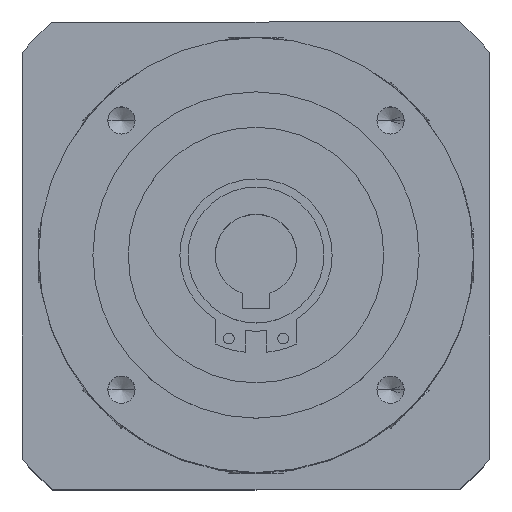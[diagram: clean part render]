
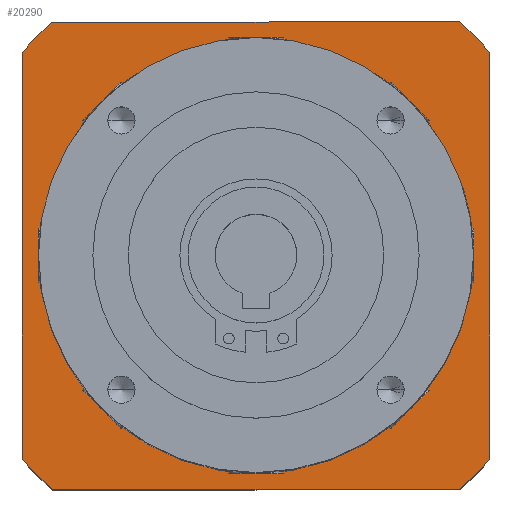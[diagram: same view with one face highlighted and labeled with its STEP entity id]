
A CAD part, top view. The second image highlights one B-rep face of the part: STEP entity #20290.
In plain terms, the highlighted planar face has unit normal (0, 0, 1).
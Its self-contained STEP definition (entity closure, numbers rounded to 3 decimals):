
#890 = CARTESIAN_POINT ( 'NONE',  ( 43., 37.417, -12. ) ) ;
#1550 = EDGE_CURVE ( 'NONE', #31277, #6222, #37655, .T. ) ;
#1603 = EDGE_CURVE ( 'NONE', #32225, #5279, #18137, .T. ) ;
#1997 = LINE ( 'NONE', #33363, #10677 ) ;
#2285 = AXIS2_PLACEMENT_3D ( 'NONE', #6943, #32717, #10690 ) ;
#2527 = CARTESIAN_POINT ( 'NONE',  ( 37.417, -43., -12. ) ) ;
#2835 = CARTESIAN_POINT ( 'NONE',  ( -37.417, -43., -12. ) ) ;
#3167 = DIRECTION ( 'NONE',  ( 0., 0., -1. ) ) ;
#3399 = CARTESIAN_POINT ( 'NONE',  ( 0., 0., -12. ) ) ;
#3526 = EDGE_CURVE ( 'NONE', #36355, #31277, #35825, .T. ) ;
#4879 = EDGE_CURVE ( 'NONE', #34832, #5698, #42678, .T. ) ;
#5279 = VERTEX_POINT ( 'NONE', #890 ) ;
#5698 = VERTEX_POINT ( 'NONE', #29025 ) ;
#6222 = VERTEX_POINT ( 'NONE', #23829 ) ;
#6830 = CARTESIAN_POINT ( 'NONE',  ( 37.417, 43., -12. ) ) ;
#6943 = CARTESIAN_POINT ( 'NONE',  ( 0., 0., -12. ) ) ;
#7098 = LINE ( 'NONE', #38629, #14614 ) ;
#7108 = DIRECTION ( 'NONE',  ( 1., 0., 0. ) ) ;
#7937 = ORIENTED_EDGE ( 'NONE', *, *, #4879, .F. ) ;
#8317 = DIRECTION ( 'NONE',  ( 0., 0., -1. ) ) ;
#8681 = EDGE_CURVE ( 'NONE', #40943, #22997, #30551, .T. ) ;
#8848 = DIRECTION ( 'NONE',  ( 1., 0., 0. ) ) ;
#8912 = DIRECTION ( 'NONE',  ( 0., 0., -1. ) ) ;
#8947 = CARTESIAN_POINT ( 'NONE',  ( 0., 0., -12. ) ) ;
#10523 = DIRECTION ( 'NONE',  ( 1., 0., 0. ) ) ;
#10530 = DIRECTION ( 'NONE',  ( 0., 0., 1. ) ) ;
#10588 = CARTESIAN_POINT ( 'NONE',  ( 0., 0., -12. ) ) ;
#10677 = VECTOR ( 'NONE', #37208, 1000. ) ;
#10690 = DIRECTION ( 'NONE',  ( 1., 0., 0. ) ) ;
#10765 = ORIENTED_EDGE ( 'NONE', *, *, #8681, .F. ) ;
#11021 = DIRECTION ( 'NONE',  ( 0., 1., 0. ) ) ;
#11113 = CARTESIAN_POINT ( 'NONE',  ( -43., 36., -12. ) ) ;
#11777 = CARTESIAN_POINT ( 'NONE',  ( 43., 36., -12. ) ) ;
#13611 = AXIS2_PLACEMENT_3D ( 'NONE', #8947, #8912, #8848 ) ;
#14614 = VECTOR ( 'NONE', #42363, 1000. ) ;
#15356 = VERTEX_POINT ( 'NONE', #15952 ) ;
#15479 = ORIENTED_EDGE ( 'NONE', *, *, #1550, .F. ) ;
#15608 = CARTESIAN_POINT ( 'NONE',  ( 0., 0., -12. ) ) ;
#15669 = DIRECTION ( 'NONE',  ( 0., 0., -1. ) ) ;
#15736 = DIRECTION ( 'NONE',  ( 1., 0., 0. ) ) ;
#15952 = CARTESIAN_POINT ( 'NONE',  ( -37.417, 43., -12. ) ) ;
#16383 = EDGE_CURVE ( 'NONE', #5279, #40943, #27110, .T. ) ;
#18013 = ORIENTED_EDGE ( 'NONE', *, *, #40339, .F. ) ;
#18137 = CIRCLE ( 'NONE', #37818, 57. ) ;
#18233 = ORIENTED_EDGE ( 'NONE', *, *, #3526, .F. ) ;
#18273 = EDGE_LOOP ( 'NONE', ( #33893, #18013, #46667, #15479, #18233, #23667, #10765, #47023 ) ) ;
#20290 = ADVANCED_FACE ( 'NONE', ( #45343, #28048 ), #45002, .F. ) ;
#22074 = ORIENTED_EDGE ( 'NONE', *, *, #38146, .F. ) ;
#22997 = VERTEX_POINT ( 'NONE', #2527 ) ;
#23618 = EDGE_CURVE ( 'NONE', #22997, #36355, #1997, .T. ) ;
#23667 = ORIENTED_EDGE ( 'NONE', *, *, #23618, .F. ) ;
#23829 = CARTESIAN_POINT ( 'NONE',  ( -43., 37.417, -12. ) ) ;
#25244 = CARTESIAN_POINT ( 'NONE',  ( 0., 0., -12. ) ) ;
#25834 = EDGE_LOOP ( 'NONE', ( #7937, #22074 ) ) ;
#27110 = LINE ( 'NONE', #11777, #43966 ) ;
#27227 = CIRCLE ( 'NONE', #33309, 57. ) ;
#27875 = VECTOR ( 'NONE', #11021, 1000. ) ;
#28048 = FACE_BOUND ( 'NONE', #25834, .T. ) ;
#28939 = DIRECTION ( 'NONE',  ( 1., 0., 0. ) ) ;
#29025 = CARTESIAN_POINT ( 'NONE',  ( -36., 0., -12. ) ) ;
#29188 = DIRECTION ( 'NONE',  ( 0., 0., 1. ) ) ;
#29325 = CARTESIAN_POINT ( 'NONE',  ( 36., 0., -12. ) ) ;
#30551 = CIRCLE ( 'NONE', #2285, 57. ) ;
#31277 = VERTEX_POINT ( 'NONE', #41399 ) ;
#32225 = VERTEX_POINT ( 'NONE', #6830 ) ;
#32717 = DIRECTION ( 'NONE',  ( 0., 0., -1. ) ) ;
#33017 = EDGE_CURVE ( 'NONE', #6222, #15356, #27227, .T. ) ;
#33272 = CARTESIAN_POINT ( 'NONE',  ( 43., -37.417, -12. ) ) ;
#33309 = AXIS2_PLACEMENT_3D ( 'NONE', #25244, #3167, #28939 ) ;
#33363 = CARTESIAN_POINT ( 'NONE',  ( 0., -43., -12. ) ) ;
#33893 = ORIENTED_EDGE ( 'NONE', *, *, #1603, .F. ) ;
#34050 = DIRECTION ( 'NONE',  ( -1., 0., 0. ) ) ;
#34832 = VERTEX_POINT ( 'NONE', #29325 ) ;
#35825 = CIRCLE ( 'NONE', #13611, 57. ) ;
#36355 = VERTEX_POINT ( 'NONE', #2835 ) ;
#37208 = DIRECTION ( 'NONE',  ( -1., 0., 0. ) ) ;
#37493 = DIRECTION ( 'NONE',  ( 0., -1., 0. ) ) ;
#37566 = CARTESIAN_POINT ( 'NONE',  ( 0., 36., -12. ) ) ;
#37655 = LINE ( 'NONE', #11113, #27875 ) ;
#37818 = AXIS2_PLACEMENT_3D ( 'NONE', #15608, #15669, #15736 ) ;
#38146 = EDGE_CURVE ( 'NONE', #5698, #34832, #42299, .T. ) ;
#38370 = AXIS2_PLACEMENT_3D ( 'NONE', #3399, #29188, #7108 ) ;
#38629 = CARTESIAN_POINT ( 'NONE',  ( 0., 43., -12. ) ) ;
#40339 = EDGE_CURVE ( 'NONE', #15356, #32225, #7098, .T. ) ;
#40943 = VERTEX_POINT ( 'NONE', #33272 ) ;
#41399 = CARTESIAN_POINT ( 'NONE',  ( -43., -37.417, -12. ) ) ;
#42299 = CIRCLE ( 'NONE', #38370, 36. ) ;
#42363 = DIRECTION ( 'NONE',  ( 1., 0., 0. ) ) ;
#42678 = CIRCLE ( 'NONE', #45398, 36. ) ;
#43966 = VECTOR ( 'NONE', #37493, 1000. ) ;
#45002 = PLANE ( 'NONE',  #45007 ) ;
#45007 = AXIS2_PLACEMENT_3D ( 'NONE', #37566, #8317, #34050 ) ;
#45343 = FACE_OUTER_BOUND ( 'NONE', #18273, .T. ) ;
#45398 = AXIS2_PLACEMENT_3D ( 'NONE', #10588, #10530, #10523 ) ;
#46667 = ORIENTED_EDGE ( 'NONE', *, *, #33017, .F. ) ;
#47023 = ORIENTED_EDGE ( 'NONE', *, *, #16383, .F. ) ;
